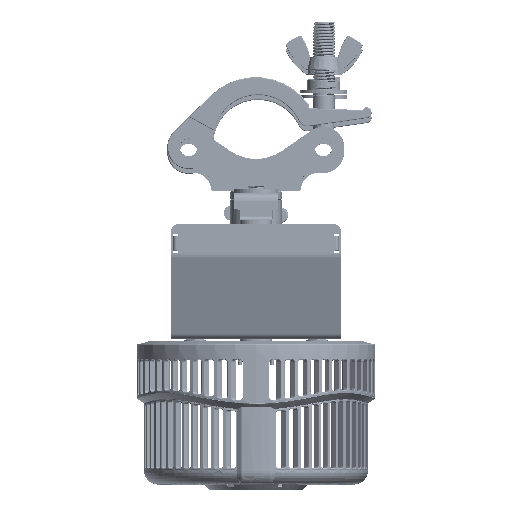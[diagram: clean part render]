
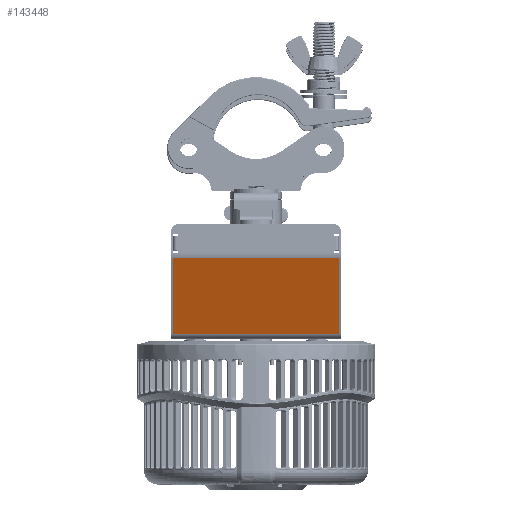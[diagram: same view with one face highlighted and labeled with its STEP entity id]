
A CAD part, top view. The second image highlights one B-rep face of the part: STEP entity #143448.
In plain terms, the highlighted planar face has unit normal (0, -0.342, 0.94) as drawn and (-0.94, -0.342, 0) by its records, which use the part's own axes.
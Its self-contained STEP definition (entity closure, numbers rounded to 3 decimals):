
#7685 = CARTESIAN_POINT ( 'NONE',  ( -80.487, 40.448, 46. ) ) ;
#10498 = DIRECTION ( 'NONE',  ( 0., 0., -1. ) ) ;
#14381 = LINE ( 'NONE', #30272, #30130 ) ;
#30130 = VECTOR ( 'NONE', #10498, 1000. ) ;
#30272 = CARTESIAN_POINT ( 'NONE',  ( -65.209, -1.528, 46. ) ) ;
#35040 = CARTESIAN_POINT ( 'NONE',  ( -65.209, -1.528, 46. ) ) ;
#36326 = DIRECTION ( 'NONE',  ( -0.342, 0.94, 0. ) ) ;
#39191 = VECTOR ( 'NONE', #145065, 1000. ) ;
#73484 = VERTEX_POINT ( 'NONE', #216016 ) ;
#75638 = EDGE_CURVE ( 'NONE', #114412, #73484, #213833, .T. ) ;
#86665 = EDGE_CURVE ( 'NONE', #199204, #117927, #14381, .T. ) ;
#87664 = ORIENTED_EDGE ( 'NONE', *, *, #86665, .F. ) ;
#88982 = EDGE_CURVE ( 'NONE', #73484, #117927, #122742, .T. ) ;
#101382 = VECTOR ( 'NONE', #237415, 1000. ) ;
#111765 = ORIENTED_EDGE ( 'NONE', *, *, #88982, .T. ) ;
#114412 = VERTEX_POINT ( 'NONE', #7685 ) ;
#114730 = AXIS2_PLACEMENT_3D ( 'NONE', #35040, #178298, #36326 ) ;
#117927 = VERTEX_POINT ( 'NONE', #183836 ) ;
#122742 = LINE ( 'NONE', #247674, #39191 ) ;
#126368 = LINE ( 'NONE', #147395, #254627 ) ;
#136189 = FACE_OUTER_BOUND ( 'NONE', #143925, .T. ) ;
#143448 = ADVANCED_FACE ( 'NONE', ( #136189 ), #215215, .F. ) ;
#143925 = EDGE_LOOP ( 'NONE', ( #111765, #87664, #237057, #217446 ) ) ;
#145065 = DIRECTION ( 'NONE',  ( 0.342, -0.94, 0. ) ) ;
#147395 = CARTESIAN_POINT ( 'NONE',  ( -65.209, -1.528, 46. ) ) ;
#153220 = EDGE_CURVE ( 'NONE', #114412, #199204, #126368, .T. ) ;
#167618 = CARTESIAN_POINT ( 'NONE',  ( -65.209, -1.528, 46. ) ) ;
#176875 = CARTESIAN_POINT ( 'NONE',  ( -80.487, 40.448, 46. ) ) ;
#178298 = DIRECTION ( 'NONE',  ( 0.94, 0.342, 0. ) ) ;
#183836 = CARTESIAN_POINT ( 'NONE',  ( -65.209, -1.528, -46. ) ) ;
#188199 = DIRECTION ( 'NONE',  ( 0.342, -0.94, 0. ) ) ;
#199204 = VERTEX_POINT ( 'NONE', #167618 ) ;
#213833 = LINE ( 'NONE', #176875, #101382 ) ;
#215215 = PLANE ( 'NONE',  #114730 ) ;
#216016 = CARTESIAN_POINT ( 'NONE',  ( -80.487, 40.448, -46. ) ) ;
#217446 = ORIENTED_EDGE ( 'NONE', *, *, #75638, .T. ) ;
#237057 = ORIENTED_EDGE ( 'NONE', *, *, #153220, .F. ) ;
#237415 = DIRECTION ( 'NONE',  ( 0., 0., -1. ) ) ;
#247674 = CARTESIAN_POINT ( 'NONE',  ( -65.209, -1.528, -46. ) ) ;
#254627 = VECTOR ( 'NONE', #188199, 1000. ) ;
